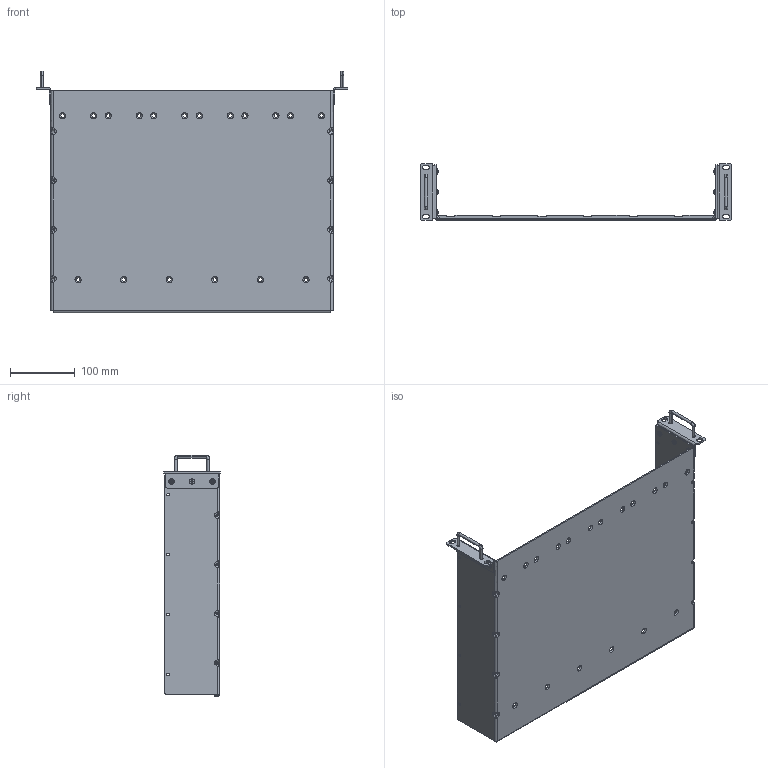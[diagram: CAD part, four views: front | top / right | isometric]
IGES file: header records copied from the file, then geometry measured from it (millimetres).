
Start section:  PTC IGES file: cu_rmx410x_shelf.igs
Global section: file name: cu_rmx410x_shelf.igs; native system: Creo Parametric by PTC Inc.; preprocessor: 2015380; author: gvillanu; organization: Unknown; date: 20180122.132602; units: inch
Bounding box: 482.6 x 87.88 x 373.96 mm (x, y, z)
Volume: 438064.3 mm3; surface area: 434117.9 mm2
Topology: 1 solids, 1 shells, 810 faces, 1843 edges, 1051 vertices
Faces by surface type: revolution 408, bspline 202, extrusion 200
